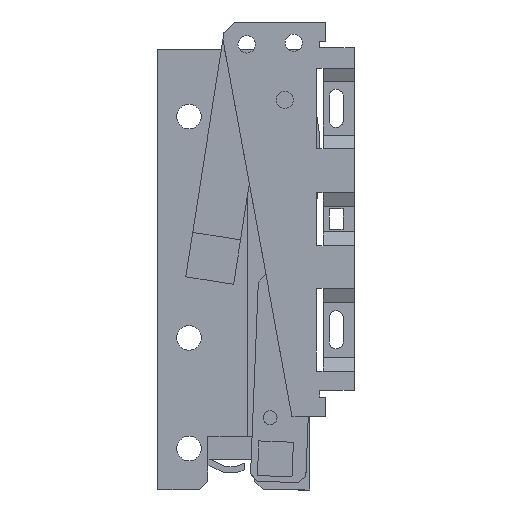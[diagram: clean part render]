
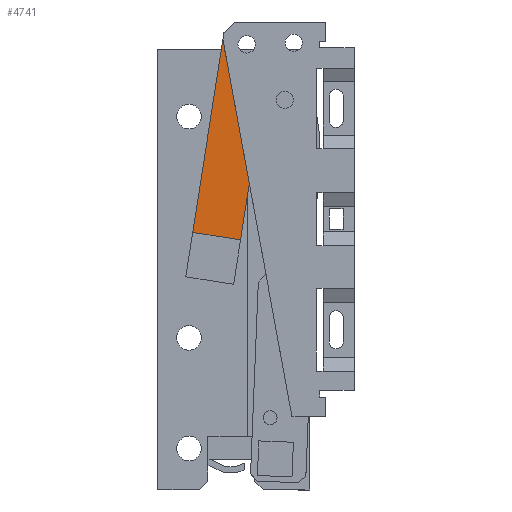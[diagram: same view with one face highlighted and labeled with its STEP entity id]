
A CAD part, left-side view. The second image highlights one B-rep face of the part: STEP entity #4741.
In plain terms, the highlighted planar face has unit normal (-1, 0, 0).
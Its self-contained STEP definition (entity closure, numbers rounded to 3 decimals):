
#9 = AXIS2_PLACEMENT_3D ( 'NONE', #3986, #4360, #2089 ) ;
#43 = VECTOR ( 'NONE', #4756, 1000. ) ;
#70 = CARTESIAN_POINT ( 'NONE',  ( -7., -18.541, 16.103 ) ) ;
#230 = DIRECTION ( 'NONE',  ( 0., -0.988, -0.155 ) ) ;
#248 = VECTOR ( 'NONE', #1810, 1000. ) ;
#336 = ORIENTED_EDGE ( 'NONE', *, *, #931, .F. ) ;
#507 = CARTESIAN_POINT ( 'NONE',  ( -7., -9.821, 22.249 ) ) ;
#521 = CARTESIAN_POINT ( 'NONE',  ( -7., -23.522, 19.256 ) ) ;
#554 = EDGE_CURVE ( 'NONE', #4966, #3562, #3894, .T. ) ;
#648 = CARTESIAN_POINT ( 'NONE',  ( -7., -23.522, 19.256 ) ) ;
#688 = EDGE_CURVE ( 'NONE', #851, #2412, #3411, .T. ) ;
#851 = VERTEX_POINT ( 'NONE', #1629 ) ;
#931 = EDGE_CURVE ( 'NONE', #3562, #2412, #1072, .T. ) ;
#1072 = LINE ( 'NONE', #3472, #43 ) ;
#1108 = DIRECTION ( 'NONE',  ( 0., -0.155, 0.988 ) ) ;
#1358 = CARTESIAN_POINT ( 'NONE',  ( -7., -10.548, 18.281 ) ) ;
#1416 = LINE ( 'NONE', #2924, #2436 ) ;
#1455 = CARTESIAN_POINT ( 'NONE',  ( -7., 0.283, -42.261 ) ) ;
#1508 = ORIENTED_EDGE ( 'NONE', *, *, #3006, .T. ) ;
#1629 = CARTESIAN_POINT ( 'NONE',  ( -7., -14.921, -35.661 ) ) ;
#1654 = VERTEX_POINT ( 'NONE', #507 ) ;
#1810 = DIRECTION ( 'NONE',  ( 0., 0.155, -0.988 ) ) ;
#1814 = VERTEX_POINT ( 'NONE', #4783 ) ;
#2089 = DIRECTION ( 'NONE',  ( 0., 0., 1. ) ) ;
#2313 = LINE ( 'NONE', #1455, #248 ) ;
#2402 = VECTOR ( 'NONE', #1108, 1000. ) ;
#2412 = VERTEX_POINT ( 'NONE', #521 ) ;
#2436 = VECTOR ( 'NONE', #230, 1000. ) ;
#2572 = DIRECTION ( 'NONE',  ( 0., -0.984, 0.18 ) ) ;
#2727 = FACE_OUTER_BOUND ( 'NONE', #4473, .T. ) ;
#2800 = CARTESIAN_POINT ( 'NONE',  ( -7., -17.1, 15.839 ) ) ;
#2882 = VECTOR ( 'NONE', #2572, 1000. ) ;
#2906 = EDGE_CURVE ( 'NONE', #1654, #4966, #3803, .T. ) ;
#2924 = CARTESIAN_POINT ( 'NONE',  ( -7., -8.006, -34.578 ) ) ;
#2996 = ORIENTED_EDGE ( 'NONE', *, *, #688, .T. ) ;
#3006 = EDGE_CURVE ( 'NONE', #1814, #851, #1416, .T. ) ;
#3411 = LINE ( 'NONE', #648, #2402 ) ;
#3472 = CARTESIAN_POINT ( 'NONE',  ( -7., -18.525, 16.093 ) ) ;
#3562 = VERTEX_POINT ( 'NONE', #70 ) ;
#3590 = PLANE ( 'NONE',  #9 ) ;
#3757 = ORIENTED_EDGE ( 'NONE', *, *, #554, .F. ) ;
#3780 = ORIENTED_EDGE ( 'NONE', *, *, #4271, .T. ) ;
#3803 = LINE ( 'NONE', #1358, #4677 ) ;
#3891 = ORIENTED_EDGE ( 'NONE', *, *, #2906, .F. ) ;
#3894 = LINE ( 'NONE', #2800, #2882 ) ;
#3986 = CARTESIAN_POINT ( 'NONE',  ( -7., -16.454, 19.364 ) ) ;
#4092 = CARTESIAN_POINT ( 'NONE',  ( -7., -11.194, 14.756 ) ) ;
#4271 = EDGE_CURVE ( 'NONE', #1654, #1814, #2313, .T. ) ;
#4360 = DIRECTION ( 'NONE',  ( -1., 0., 0. ) ) ;
#4402 = DIRECTION ( 'NONE',  ( 0., -0.18, -0.984 ) ) ;
#4473 = EDGE_LOOP ( 'NONE', ( #3891, #3780, #1508, #2996, #336, #3757 ) ) ;
#4677 = VECTOR ( 'NONE', #4402, 1000. ) ;
#4741 = ADVANCED_FACE ( 'NONE', ( #2727 ), #3590, .T. ) ;
#4756 = DIRECTION ( 'NONE',  ( 0., -0.845, 0.535 ) ) ;
#4783 = CARTESIAN_POINT ( 'NONE',  ( -7., -1.09, -33.495 ) ) ;
#4966 = VERTEX_POINT ( 'NONE', #4092 ) ;
